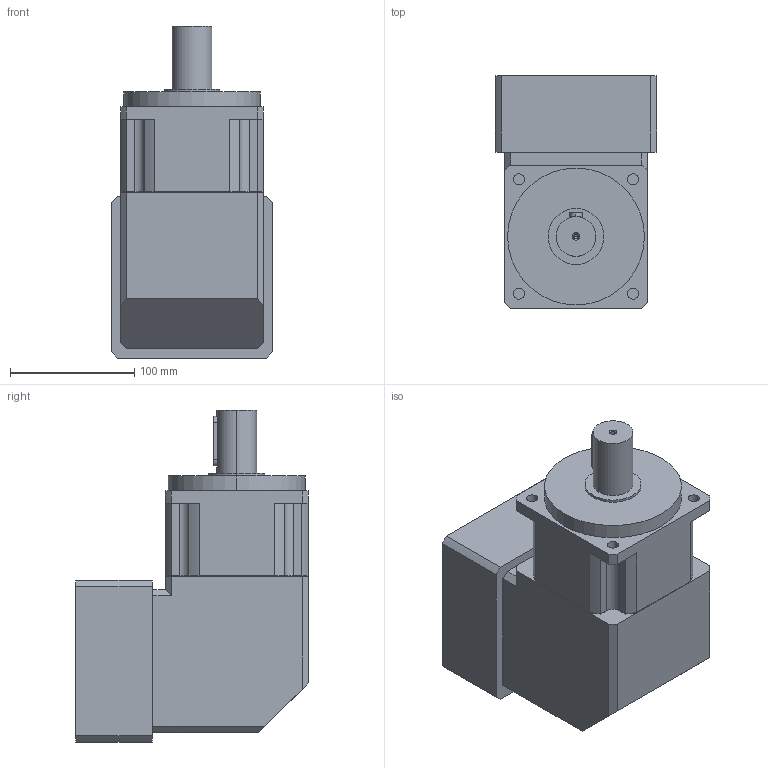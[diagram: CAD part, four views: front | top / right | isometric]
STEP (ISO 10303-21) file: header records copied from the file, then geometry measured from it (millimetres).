
FILE_DESCRIPTION (( 'STEP AP203' ), '1' );
FILE_NAME ('IBR115L1.STEP', '2015-11-07T05:22:05', ( 'User' ), ( 'china' ), 'SwSTEP 2.0', 'SolidWorks 2015', '' );
FILE_SCHEMA (( 'CONFIG_CONTROL_DESIGN' ));
Length unit declared in the file: millimetre
Products named in the file (1): IBR115L1
Bounding box: 130 x 187 x 267 mm (x, y, z)
Volume: 3651996.5 mm3; surface area: 172630.5 mm2
Topology: 1 solids, 1 shells, 157 faces, 380 edges, 233 vertices
Faces by surface type: cylinder 81, plane 52, cone 12, torus 12
Entity records: 4703 total; most frequent: CARTESIAN_POINT 936, DIRECTION 800, ORIENTED_EDGE 740, EDGE_CURVE 370, AXIS2_PLACEMENT_3D 299, VERTEX_POINT 233, VECTOR 202, LINE 202
